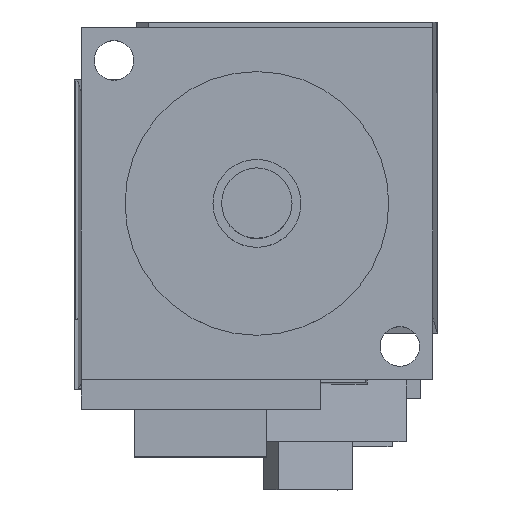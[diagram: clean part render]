
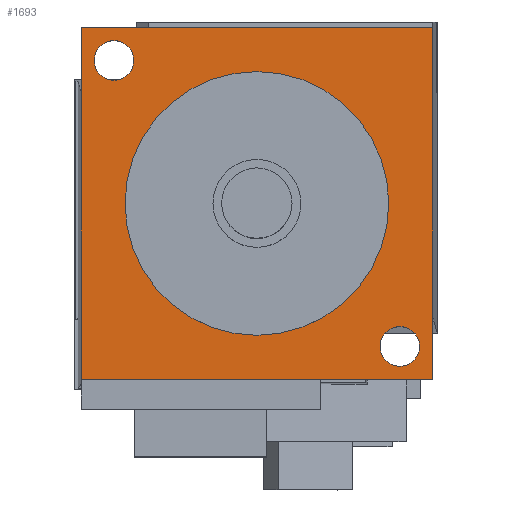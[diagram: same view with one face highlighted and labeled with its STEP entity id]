
A CAD part, top view. The second image highlights one B-rep face of the part: STEP entity #1693.
In plain terms, the highlighted planar face has unit normal (0, 0, 1).
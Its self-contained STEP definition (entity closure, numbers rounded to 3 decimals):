
#22=CARTESIAN_POINT('',(0.,0.,0.));
#23=DIRECTION('',(0.,0.,1.));
#24=DIRECTION('',(1.,0.,0.));
#25=AXIS2_PLACEMENT_3D('',#22,#23,#24);
#27=CARTESIAN_POINT('',(0.,0.,0.));
#28=DIRECTION('',(0.,0.,1.));
#29=DIRECTION('',(-1.,0.,0.));
#30=AXIS2_PLACEMENT_3D('',#27,#28,#29);
#32=CARTESIAN_POINT('',(-16.263,16.263,0.));
#33=DIRECTION('',(0.,0.,1.));
#34=DIRECTION('',(1.,0.,0.));
#35=AXIS2_PLACEMENT_3D('',#32,#33,#34);
#37=CARTESIAN_POINT('',(-16.263,16.263,0.));
#38=DIRECTION('',(0.,0.,1.));
#39=DIRECTION('',(-1.,0.,0.));
#40=AXIS2_PLACEMENT_3D('',#37,#38,#39);
#42=CARTESIAN_POINT('',(16.263,-16.263,0.));
#43=DIRECTION('',(0.,0.,1.));
#44=DIRECTION('',(-1.,0.,0.));
#45=AXIS2_PLACEMENT_3D('',#42,#43,#44);
#47=CARTESIAN_POINT('',(16.263,-16.263,0.));
#48=DIRECTION('',(0.,0.,1.));
#49=DIRECTION('',(1.,0.,0.));
#50=AXIS2_PLACEMENT_3D('',#47,#48,#49);
#56=DIRECTION('',(0.,-1.,0.));
#57=VECTOR('',#56,40.);
#58=CARTESIAN_POINT('',(-20.,20.,0.));
#59=LINE('',#58,#57);
#100=DIRECTION('',(1.,0.,0.));
#101=VECTOR('',#100,40.);
#102=CARTESIAN_POINT('',(-20.,-20.,0.));
#103=LINE('',#102,#101);
#306=DIRECTION('',(0.,1.,0.));
#307=VECTOR('',#306,40.);
#308=CARTESIAN_POINT('',(20.,-20.,0.));
#309=LINE('',#308,#307);
#876=DIRECTION('',(-1.,0.,0.));
#877=VECTOR('',#876,40.);
#878=CARTESIAN_POINT('',(20.,20.,0.));
#879=LINE('',#878,#877);
#1248=CARTESIAN_POINT('',(15.,0.,0.));
#1249=CARTESIAN_POINT('',(-15.,0.,0.));
#1250=VERTEX_POINT('',#1248);
#1251=VERTEX_POINT('',#1249);
#1252=CARTESIAN_POINT('',(-20.,20.,0.));
#1253=CARTESIAN_POINT('',(-20.,-20.,0.));
#1254=VERTEX_POINT('',#1252);
#1255=VERTEX_POINT('',#1253);
#1256=CARTESIAN_POINT('',(20.,20.,0.));
#1257=VERTEX_POINT('',#1256);
#1258=CARTESIAN_POINT('',(20.,-20.,0.));
#1259=VERTEX_POINT('',#1258);
#1260=CARTESIAN_POINT('',(-14.013,16.263,0.));
#1261=CARTESIAN_POINT('',(-18.513,16.263,0.));
#1262=VERTEX_POINT('',#1260);
#1263=VERTEX_POINT('',#1261);
#1264=CARTESIAN_POINT('',(14.013,-16.263,0.));
#1265=CARTESIAN_POINT('',(18.513,-16.263,0.));
#1266=VERTEX_POINT('',#1264);
#1267=VERTEX_POINT('',#1265);
#1661=CARTESIAN_POINT('',(0.,0.,0.));
#1662=DIRECTION('',(0.,0.,1.));
#1663=DIRECTION('',(1.,0.,0.));
#1664=AXIS2_PLACEMENT_3D('',#1661,#1662,#1663);
#1665=PLANE('',#1664);
#1667=ORIENTED_EDGE('',*,*,#1666,.F.);
#1669=ORIENTED_EDGE('',*,*,#1668,.F.);
#1671=ORIENTED_EDGE('',*,*,#1670,.F.);
#1673=ORIENTED_EDGE('',*,*,#1672,.F.);
#1674=EDGE_LOOP('',(#1667,#1669,#1671,#1673));
#1675=FACE_OUTER_BOUND('',#1674,.F.);
#1676=ORIENTED_EDGE('',*,*,#1651,.T.);
#1678=ORIENTED_EDGE('',*,*,#1677,.T.);
#1679=EDGE_LOOP('',(#1676,#1678));
#1680=FACE_BOUND('',#1679,.F.);
#1682=ORIENTED_EDGE('',*,*,#1681,.T.);
#1684=ORIENTED_EDGE('',*,*,#1683,.T.);
#1685=EDGE_LOOP('',(#1682,#1684));
#1686=FACE_BOUND('',#1685,.F.);
#1688=ORIENTED_EDGE('',*,*,#1687,.T.);
#1690=ORIENTED_EDGE('',*,*,#1689,.T.);
#1691=EDGE_LOOP('',(#1688,#1690));
#1692=FACE_BOUND('',#1691,.F.);
#1693=ADVANCED_FACE('',(#1675,#1680,#1686,#1692),#1665,.T.);
#26=CIRCLE('',#25,15.);
#31=CIRCLE('',#30,15.);
#36=CIRCLE('',#35,2.25);
#41=CIRCLE('',#40,2.25);
#46=CIRCLE('',#45,2.25);
#51=CIRCLE('',#50,2.25);
#1651=EDGE_CURVE('',#1250,#1251,#26,.T.);
#1666=EDGE_CURVE('',#1254,#1255,#59,.T.);
#1668=EDGE_CURVE('',#1257,#1254,#879,.T.);
#1670=EDGE_CURVE('',#1259,#1257,#309,.T.);
#1672=EDGE_CURVE('',#1255,#1259,#103,.T.);
#1677=EDGE_CURVE('',#1251,#1250,#31,.T.);
#1681=EDGE_CURVE('',#1262,#1263,#36,.T.);
#1683=EDGE_CURVE('',#1263,#1262,#41,.T.);
#1687=EDGE_CURVE('',#1266,#1267,#46,.T.);
#1689=EDGE_CURVE('',#1267,#1266,#51,.T.);
